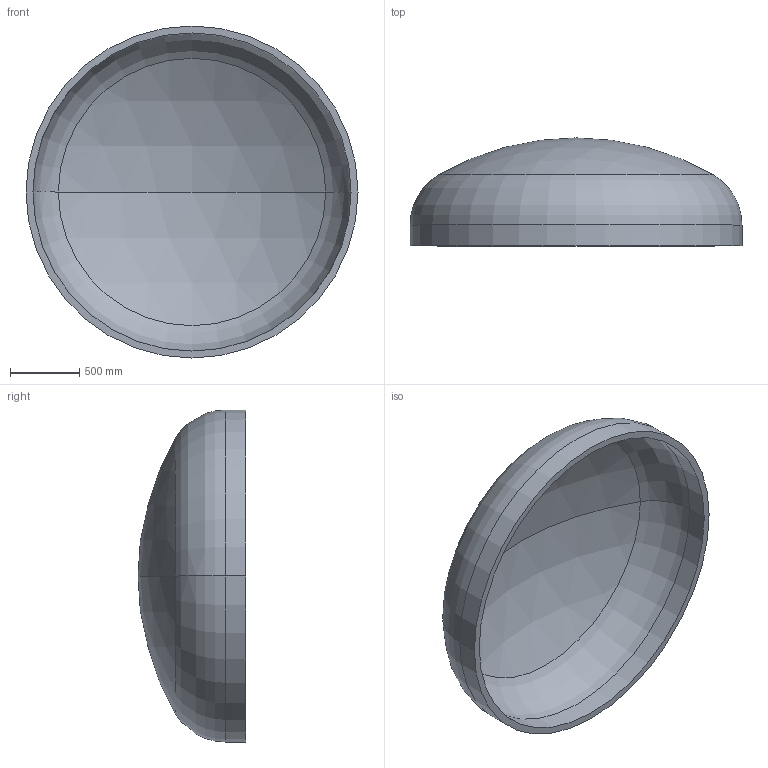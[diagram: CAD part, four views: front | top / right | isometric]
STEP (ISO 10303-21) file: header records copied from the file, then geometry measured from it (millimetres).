
FILE_DESCRIPTION (( 'STEP AP203' ), '1' );
FILE_NAME ('DIN 28013 Korbbogenform_-_Boden DIN 28013 - 2400 x 150 - I - s=50.step', '2016-07-01T15:26:44', ( '' ), ( '' ), 'SwSTEP 2.0', 'SolidWorks 2013', '' );
FILE_SCHEMA (( 'CONFIG_CONTROL_DESIGN' ));
Length unit declared in the file: millimetre
Products named in the file (1): DIN 28013 Korbbogenform_-_Boden DIN 28013 - 2400 x 150 - I - s=50
Bounding box: 2400 x 780.56 x 2400 mm (x, y, z)
Volume: 360241887.7 mm3; surface area: 14784044.1 mm2
Topology: 1 solids, 1 shells, 13 faces, 24 edges, 14 vertices
Faces by surface type: torus 4, cylinder 4, sphere 4, plane 1
Entity records: 407 total; most frequent: DIRECTION 72, CARTESIAN_POINT 52, ORIENTED_EDGE 48, AXIS2_PLACEMENT_3D 34, EDGE_CURVE 24, CIRCLE 20, EDGE_LOOP 14, VERTEX_POINT 14
